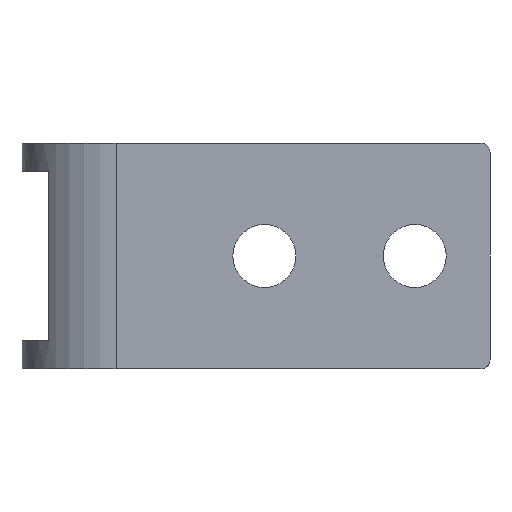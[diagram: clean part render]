
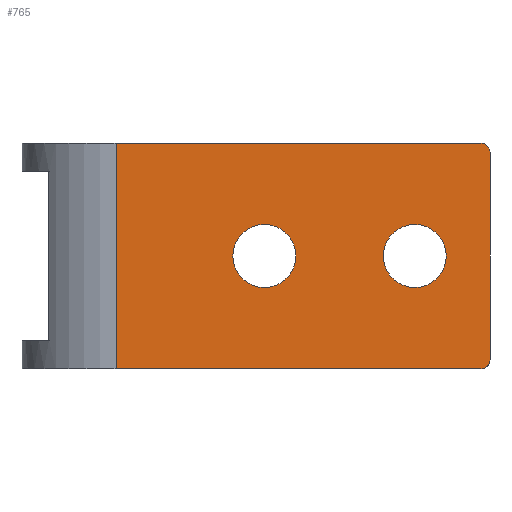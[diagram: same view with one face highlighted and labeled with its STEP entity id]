
A CAD part, front view. The second image highlights one B-rep face of the part: STEP entity #765.
In plain terms, the highlighted planar face has unit normal (0, -1, 0).
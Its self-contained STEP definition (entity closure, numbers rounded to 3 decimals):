
#60=CARTESIAN_POINT('',(194.675,154.27,6.));
#61=VERTEX_POINT('',#60);
#62=CARTESIAN_POINT('',(193.0,154.27,6.));
#63=DIRECTION('',(0.0,1.0,0.0));
#64=DIRECTION('',(-1.0,0.0,0.0));
#65=AXIS2_PLACEMENT_3D('',#62,#63,#64);
#66=CIRCLE('',#65,1.675);
#67=EDGE_CURVE('',#61,#61,#66,.T.);
#88=CARTESIAN_POINT('',(202.675,154.27,6.0));
#89=VERTEX_POINT('',#88);
#90=CARTESIAN_POINT('',(201.0,154.27,6.0));
#91=DIRECTION('',(0.0,1.0,0.0));
#92=DIRECTION('',(-1.0,0.0,0.0));
#93=AXIS2_PLACEMENT_3D('',#90,#91,#92);
#94=CIRCLE('',#93,1.675);
#95=EDGE_CURVE('',#89,#89,#94,.T.);
#147=CARTESIAN_POINT('',(205.0,154.27,0.5));
#148=VERTEX_POINT('',#147);
#149=CARTESIAN_POINT('',(204.5,154.27,0.0));
#150=VERTEX_POINT('',#149);
#151=CARTESIAN_POINT('',(204.5,154.27,0.5));
#152=DIRECTION('',(0.0,1.0,0.0));
#153=DIRECTION('',(0.707,0.0,-0.707));
#154=AXIS2_PLACEMENT_3D('',#151,#152,#153);
#155=CIRCLE('',#154,0.5);
#156=EDGE_CURVE('',#148,#150,#155,.T.);
#220=CARTESIAN_POINT('',(205.0,154.27,11.5));
#221=VERTEX_POINT('',#220);
#228=CARTESIAN_POINT('',(205.0,154.27,0.5));
#229=DIRECTION('',(0.0,0.0,1.0));
#230=VECTOR('',#229,11.);
#231=LINE('',#228,#230);
#232=EDGE_CURVE('',#148,#221,#231,.T.);
#354=CARTESIAN_POINT('',(204.5,154.27,12.));
#355=VERTEX_POINT('',#354);
#356=CARTESIAN_POINT('',(204.5,154.27,11.5));
#357=DIRECTION('',(0.0,1.,0.0));
#358=DIRECTION('',(0.707,0.0,0.707));
#359=AXIS2_PLACEMENT_3D('',#356,#357,#358);
#360=CIRCLE('',#359,0.5);
#361=EDGE_CURVE('',#355,#221,#360,.T.);
#389=CARTESIAN_POINT('',(185.114,154.27,12.));
#390=VERTEX_POINT('',#389);
#398=CARTESIAN_POINT('',(204.5,154.27,12.));
#399=DIRECTION('',(-1.0,0.0,0.0));
#400=VECTOR('',#399,19.386);
#401=LINE('',#398,#400);
#402=EDGE_CURVE('',#355,#390,#401,.T.);
#572=CARTESIAN_POINT('',(185.114,154.27,0.0));
#573=VERTEX_POINT('',#572);
#581=CARTESIAN_POINT('',(185.114,154.27,0.0));
#582=DIRECTION('',(0.0,0.0,1.0));
#583=VECTOR('',#582,12.);
#584=LINE('',#581,#583);
#585=EDGE_CURVE('',#573,#390,#584,.T.);
#741=CARTESIAN_POINT('',(205.0,154.27,0.0));
#742=DIRECTION('',(0.0,-1.0,0.0));
#743=DIRECTION('',(0.0,0.0,-1.0));
#744=AXIS2_PLACEMENT_3D('',#741,#742,#743);
#745=PLANE('',#744);
#746=ORIENTED_EDGE('',*,*,#156,.F.);
#747=ORIENTED_EDGE('',*,*,#232,.T.);
#748=ORIENTED_EDGE('',*,*,#361,.F.);
#749=ORIENTED_EDGE('',*,*,#402,.T.);
#750=ORIENTED_EDGE('',*,*,#585,.F.);
#751=CARTESIAN_POINT('',(204.5,154.27,0.0));
#752=DIRECTION('',(-1.0,0.0,0.0));
#753=VECTOR('',#752,19.386);
#754=LINE('',#751,#753);
#755=EDGE_CURVE('',#150,#573,#754,.T.);
#756=ORIENTED_EDGE('',*,*,#755,.F.);
#757=EDGE_LOOP('',(#746,#747,#748,#749,#750,#756));
#758=FACE_OUTER_BOUND('',#757,.T.);
#759=ORIENTED_EDGE('',*,*,#67,.T.);
#760=EDGE_LOOP('',(#759));
#761=FACE_BOUND('',#760,.T.);
#762=ORIENTED_EDGE('',*,*,#95,.T.);
#763=EDGE_LOOP('',(#762));
#764=FACE_BOUND('',#763,.T.);
#765=ADVANCED_FACE('',(#758,#761,#764),#745,.T.);
